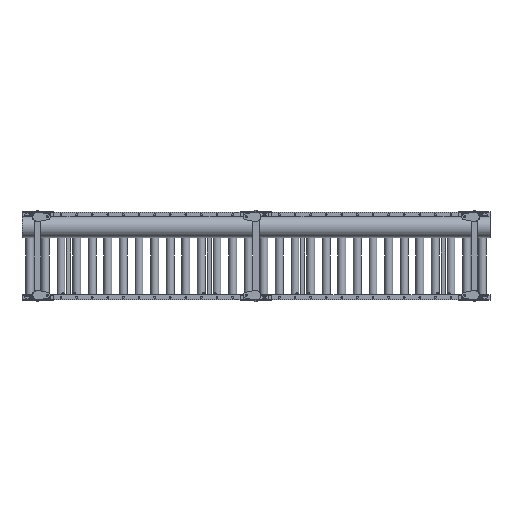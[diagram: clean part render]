
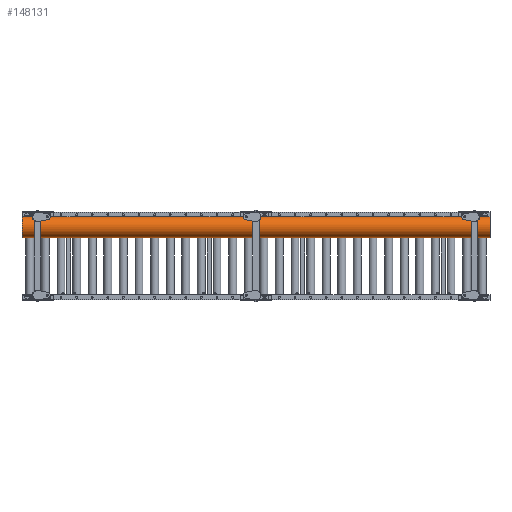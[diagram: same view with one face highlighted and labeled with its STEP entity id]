
A CAD part, front view. The second image highlights one B-rep face of the part: STEP entity #148131.
In plain terms, the highlighted cylindrical face has radius 66.89 mm (diameter 133.78 mm), a partial arc.
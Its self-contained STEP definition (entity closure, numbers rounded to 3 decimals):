
#15662 = VERTEX_POINT ( 'NONE', #84342 ) ;
#16262 = DIRECTION ( 'NONE',  ( 1., 0., 0. ) ) ;
#19863 = CARTESIAN_POINT ( 'NONE',  ( -3000., -150., 118.22 ) ) ;
#21535 = DIRECTION ( 'NONE',  ( 0., 0., -1. ) ) ;
#25108 = VECTOR ( 'NONE', #154996, 1000. ) ;
#27141 = AXIS2_PLACEMENT_3D ( 'NONE', #172658, #145702, #21535 ) ;
#42923 = CARTESIAN_POINT ( 'NONE',  ( 0., -150., 252. ) ) ;
#47248 = DIRECTION ( 'NONE',  ( 0., 0., 1. ) ) ;
#48417 = ORIENTED_EDGE ( 'NONE', *, *, #132809, .T. ) ;
#56083 = CIRCLE ( 'NONE', #27141, 66.89 ) ;
#57220 = LINE ( 'NONE', #100349, #25108 ) ;
#70687 = EDGE_CURVE ( 'NONE', #101547, #15662, #56083, .T. ) ;
#76656 = FACE_OUTER_BOUND ( 'NONE', #116454, .T. ) ;
#84342 = CARTESIAN_POINT ( 'NONE',  ( -3000., -150., 252. ) ) ;
#88893 = AXIS2_PLACEMENT_3D ( 'NONE', #92406, #90023, #145870 ) ;
#89134 = EDGE_CURVE ( 'NONE', #113245, #135007, #159819, .T. ) ;
#90023 = DIRECTION ( 'NONE',  ( 1., 0., 0. ) ) ;
#92406 = CARTESIAN_POINT ( 'NONE',  ( -3177.652, -150., 185.11 ) ) ;
#92539 = VECTOR ( 'NONE', #16262, 1000. ) ;
#100349 = CARTESIAN_POINT ( 'NONE',  ( -3177.652, -150., 118.22 ) ) ;
#101547 = VERTEX_POINT ( 'NONE', #19863 ) ;
#109586 = AXIS2_PLACEMENT_3D ( 'NONE', #115607, #129424, #47248 ) ;
#111624 = CARTESIAN_POINT ( 'NONE',  ( -3177.652, -150., 252. ) ) ;
#113245 = VERTEX_POINT ( 'NONE', #42923 ) ;
#115607 = CARTESIAN_POINT ( 'NONE',  ( 0., -150., 185.11 ) ) ;
#116454 = EDGE_LOOP ( 'NONE', ( #177378, #48417, #149222, #148954 ) ) ;
#129424 = DIRECTION ( 'NONE',  ( 1., 0., 0. ) ) ;
#132809 = EDGE_CURVE ( 'NONE', #101547, #135007, #57220, .T. ) ;
#135007 = VERTEX_POINT ( 'NONE', #169177 ) ;
#145702 = DIRECTION ( 'NONE',  ( -1., 0., 0. ) ) ;
#145870 = DIRECTION ( 'NONE',  ( 0., 0., -1. ) ) ;
#148131 = ADVANCED_FACE ( 'NONE', ( #76656 ), #155940, .T. ) ;
#148954 = ORIENTED_EDGE ( 'NONE', *, *, #163435, .F. ) ;
#149222 = ORIENTED_EDGE ( 'NONE', *, *, #89134, .F. ) ;
#154996 = DIRECTION ( 'NONE',  ( 1., 0., 0. ) ) ;
#155940 = CYLINDRICAL_SURFACE ( 'NONE', #88893, 66.89 ) ;
#159819 = CIRCLE ( 'NONE', #109586, 66.89 ) ;
#163435 = EDGE_CURVE ( 'NONE', #15662, #113245, #165591, .T. ) ;
#165591 = LINE ( 'NONE', #111624, #92539 ) ;
#169177 = CARTESIAN_POINT ( 'NONE',  ( 0., -150., 118.22 ) ) ;
#172658 = CARTESIAN_POINT ( 'NONE',  ( -3000., -150., 185.11 ) ) ;
#177378 = ORIENTED_EDGE ( 'NONE', *, *, #70687, .F. ) ;
